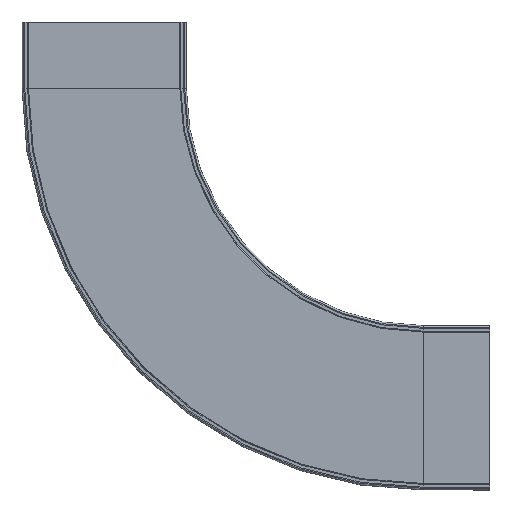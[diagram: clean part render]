
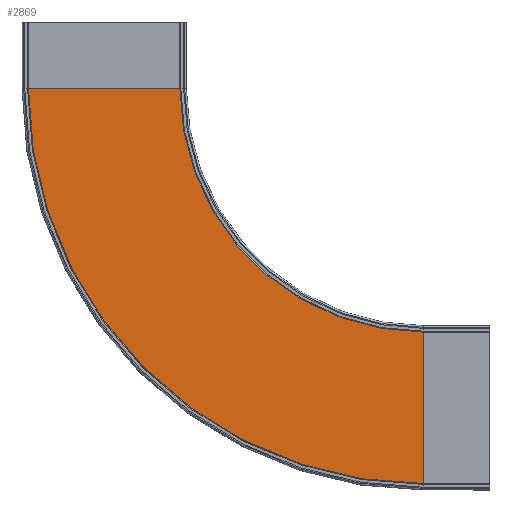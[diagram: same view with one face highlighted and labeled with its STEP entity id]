
A CAD part, front view. The second image highlights one B-rep face of the part: STEP entity #2869.
In plain terms, the highlighted planar face has unit normal (0, -1, 0).
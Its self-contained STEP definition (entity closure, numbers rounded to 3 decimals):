
#578 = CARTESIAN_POINT ( 'NONE',  ( 960., -76.7, -200. ) ) ;
#639 = VECTOR ( 'NONE', #17876, 1000. ) ;
#682 = CIRCLE ( 'NONE', #2039, 732.4 ) ;
#875 = EDGE_CURVE ( 'NONE', #9181, #5777, #8836, .T. ) ;
#1943 = CARTESIAN_POINT ( 'NONE',  ( 960., -76.7, -1387.6 ) ) ;
#2039 = AXIS2_PLACEMENT_3D ( 'NONE', #578, #10480, #2199 ) ;
#2100 = DIRECTION ( 'NONE',  ( 0., 0., 1. ) ) ;
#2164 = DIRECTION ( 'NONE',  ( 0., 1., 0. ) ) ;
#2199 = DIRECTION ( 'NONE',  ( 0., 0., 1. ) ) ;
#2208 = CARTESIAN_POINT ( 'NONE',  ( 960., -76.7, -200. ) ) ;
#2232 = EDGE_CURVE ( 'NONE', #9181, #16500, #4704, .T. ) ;
#2848 = DIRECTION ( 'NONE',  ( 0., 1., 0. ) ) ;
#2869 = ADVANCED_FACE ( 'NONE', ( #8554 ), #2961, .F. ) ;
#2961 = PLANE ( 'NONE',  #10984 ) ;
#3231 = EDGE_CURVE ( 'NONE', #4803, #16500, #9837, .T. ) ;
#3691 = AXIS2_PLACEMENT_3D ( 'NONE', #2208, #2164, #2100 ) ;
#3811 = CARTESIAN_POINT ( 'NONE',  ( 960., -76.7, -1387.6 ) ) ;
#4704 = CIRCLE ( 'NONE', #3691, 1187.6 ) ;
#4803 = VERTEX_POINT ( 'NONE', #14696 ) ;
#5020 = CARTESIAN_POINT ( 'NONE',  ( 960., -76.7, -932.4 ) ) ;
#5777 = VERTEX_POINT ( 'NONE', #5020 ) ;
#6644 = ORIENTED_EDGE ( 'NONE', *, *, #16541, .T. ) ;
#8554 = FACE_OUTER_BOUND ( 'NONE', #10875, .T. ) ;
#8836 = LINE ( 'NONE', #17986, #639 ) ;
#9153 = ORIENTED_EDGE ( 'NONE', *, *, #2232, .F. ) ;
#9181 = VERTEX_POINT ( 'NONE', #1943 ) ;
#9557 = DIRECTION ( 'NONE',  ( -1., 0., 0. ) ) ;
#9837 = LINE ( 'NONE', #17886, #10272 ) ;
#10272 = VECTOR ( 'NONE', #9557, 1000. ) ;
#10423 = ORIENTED_EDGE ( 'NONE', *, *, #875, .T. ) ;
#10480 = DIRECTION ( 'NONE',  ( 0., 1., 0. ) ) ;
#10875 = EDGE_LOOP ( 'NONE', ( #13351, #9153, #10423, #6644 ) ) ;
#10984 = AXIS2_PLACEMENT_3D ( 'NONE', #3811, #2848, #12096 ) ;
#12096 = DIRECTION ( 'NONE',  ( 0., 0., 1. ) ) ;
#13351 = ORIENTED_EDGE ( 'NONE', *, *, #3231, .T. ) ;
#14253 = CARTESIAN_POINT ( 'NONE',  ( -227.6, -76.7, -200. ) ) ;
#14696 = CARTESIAN_POINT ( 'NONE',  ( 227.6, -76.7, -200. ) ) ;
#16500 = VERTEX_POINT ( 'NONE', #14253 ) ;
#16541 = EDGE_CURVE ( 'NONE', #5777, #4803, #682, .T. ) ;
#17876 = DIRECTION ( 'NONE',  ( 0., 0., 1. ) ) ;
#17886 = CARTESIAN_POINT ( 'NONE',  ( 0., -76.7, -200. ) ) ;
#17986 = CARTESIAN_POINT ( 'NONE',  ( 960., -76.7, -1387.6 ) ) ;
